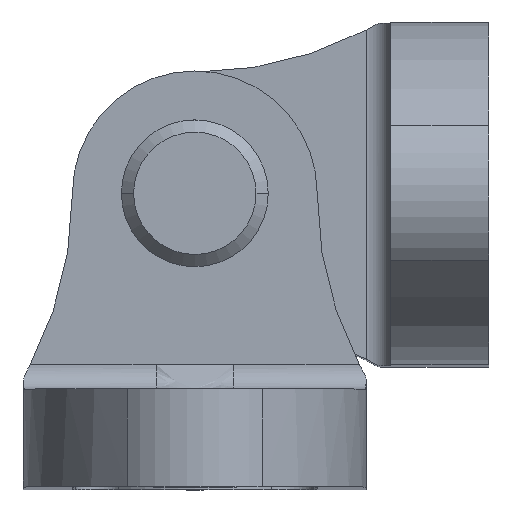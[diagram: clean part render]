
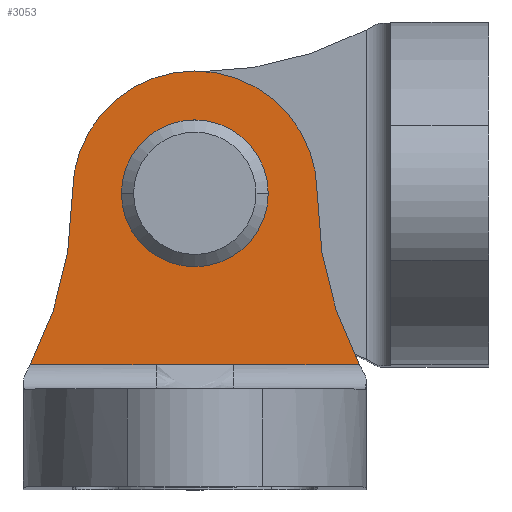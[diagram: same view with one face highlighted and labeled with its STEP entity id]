
A CAD part, top view. The second image highlights one B-rep face of the part: STEP entity #3053.
In plain terms, the highlighted planar face has unit normal (0, 0, 1).
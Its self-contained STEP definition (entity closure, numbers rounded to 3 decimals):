
#3 = CIRCLE ( 'NONE', #191, 15.062 ) ;
#7 = CIRCLE ( 'NONE', #1869, 3. ) ;
#94 = CARTESIAN_POINT ( 'NONE',  ( 0., 0., 69. ) ) ;
#107 = VECTOR ( 'NONE', #3447, 1000. ) ;
#132 = VERTEX_POINT ( 'NONE', #2239 ) ;
#191 = AXIS2_PLACEMENT_3D ( 'NONE', #3024, #1340, #3297 ) ;
#300 = ORIENTED_EDGE ( 'NONE', *, *, #1102, .T. ) ;
#321 = EDGE_CURVE ( 'NONE', #2236, #132, #1543, .T. ) ;
#362 = DIRECTION ( 'NONE',  ( 1., 0., 0. ) ) ;
#378 = DIRECTION ( 'NONE',  ( -1., 0., 0. ) ) ;
#383 = ORIENTED_EDGE ( 'NONE', *, *, #1260, .T. ) ;
#438 = DIRECTION ( 'NONE',  ( 0., 0., -1. ) ) ;
#540 = PLANE ( 'NONE',  #900 ) ;
#563 = AXIS2_PLACEMENT_3D ( 'NONE', #2346, #636, #2617 ) ;
#571 = ORIENTED_EDGE ( 'NONE', *, *, #3234, .T. ) ;
#602 = VERTEX_POINT ( 'NONE', #796 ) ;
#636 = DIRECTION ( 'NONE',  ( 0., 0., -1. ) ) ;
#642 = EDGE_LOOP ( 'NONE', ( #2132, #571, #1990, #2640, #383, #3285 ) ) ;
#774 = CARTESIAN_POINT ( 'NONE',  ( -5., 0., 69. ) ) ;
#796 = CARTESIAN_POINT ( 'NONE',  ( 3., 0., 69. ) ) ;
#842 = CARTESIAN_POINT ( 'NONE',  ( -73., -8., 69. ) ) ;
#900 = AXIS2_PLACEMENT_3D ( 'NONE', #842, #1127, #3094 ) ;
#988 = FACE_BOUND ( 'NONE', #3180, .T. ) ;
#1001 = CARTESIAN_POINT ( 'NONE',  ( -3., 0., 69. ) ) ;
#1102 = EDGE_CURVE ( 'NONE', #1300, #602, #3398, .T. ) ;
#1127 = DIRECTION ( 'NONE',  ( 0., 0., -1. ) ) ;
#1260 = EDGE_CURVE ( 'NONE', #1455, #1326, #2353, .T. ) ;
#1300 = VERTEX_POINT ( 'NONE', #1001 ) ;
#1301 = CARTESIAN_POINT ( 'NONE',  ( 0., 0., 69. ) ) ;
#1313 = VECTOR ( 'NONE', #362, 1000. ) ;
#1326 = VERTEX_POINT ( 'NONE', #2150 ) ;
#1334 = EDGE_CURVE ( 'NONE', #602, #1300, #7, .T. ) ;
#1340 = DIRECTION ( 'NONE',  ( 0., 0., 1. ) ) ;
#1402 = CARTESIAN_POINT ( 'NONE',  ( 1.578, -7., 69. ) ) ;
#1455 = VERTEX_POINT ( 'NONE', #3185 ) ;
#1543 = B_SPLINE_CURVE_WITH_KNOTS ( 'NONE', 3,
 ( #2724, #2206, #2939, #2954, #2992, #3225, #3025, #3041, #1967, #1402 ),
 .UNSPECIFIED., .F., .F.,
 ( 4, 2, 2, 2, 4 ),
 ( 0., 0.001, 0.002, 0.002, 0.003 ),
 .UNSPECIFIED. ) ;
#1589 = DIRECTION ( 'NONE',  ( -1., 0., 0. ) ) ;
#1610 = LINE ( 'NONE', #2879, #107 ) ;
#1689 = AXIS2_PLACEMENT_3D ( 'NONE', #2137, #438, #2422 ) ;
#1717 = ORIENTED_EDGE ( 'NONE', *, *, #1334, .T. ) ;
#1744 = EDGE_CURVE ( 'NONE', #132, #1455, #2070, .T. ) ;
#1869 = AXIS2_PLACEMENT_3D ( 'NONE', #1301, #3259, #1589 ) ;
#1967 = CARTESIAN_POINT ( 'NONE',  ( 1.315, -7., 69. ) ) ;
#1990 = ORIENTED_EDGE ( 'NONE', *, *, #321, .T. ) ;
#2068 = CARTESIAN_POINT ( 'NONE',  ( -6.725, -7., 69. ) ) ;
#2070 = LINE ( 'NONE', #2352, #1313 ) ;
#2075 = DIRECTION ( 'NONE',  ( 0., 0., -1. ) ) ;
#2132 = ORIENTED_EDGE ( 'NONE', *, *, #3488, .F. ) ;
#2137 = CARTESIAN_POINT ( 'NONE',  ( 20.063, 0., 69. ) ) ;
#2150 = CARTESIAN_POINT ( 'NONE',  ( 5., 0., 69. ) ) ;
#2206 = CARTESIAN_POINT ( 'NONE',  ( -1.315, -7., 69. ) ) ;
#2236 = VERTEX_POINT ( 'NONE', #2578 ) ;
#2239 = CARTESIAN_POINT ( 'NONE',  ( 1.578, -7., 69. ) ) ;
#2315 = CIRCLE ( 'NONE', #3406, 5. ) ;
#2346 = CARTESIAN_POINT ( 'NONE',  ( 0., 0., 69. ) ) ;
#2352 = CARTESIAN_POINT ( 'NONE',  ( 7., -7., 69. ) ) ;
#2353 = CIRCLE ( 'NONE', #1689, 15.063 ) ;
#2407 = EDGE_CURVE ( 'NONE', #3567, #1326, #2315, .T. ) ;
#2422 = DIRECTION ( 'NONE',  ( -1., 0., 0. ) ) ;
#2507 = FACE_OUTER_BOUND ( 'NONE', #642, .T. ) ;
#2578 = CARTESIAN_POINT ( 'NONE',  ( -1.578, -7., 69. ) ) ;
#2617 = DIRECTION ( 'NONE',  ( -1., 0., 0. ) ) ;
#2640 = ORIENTED_EDGE ( 'NONE', *, *, #1744, .T. ) ;
#2724 = CARTESIAN_POINT ( 'NONE',  ( -1.578, -7., 69. ) ) ;
#2827 = VERTEX_POINT ( 'NONE', #2068 ) ;
#2879 = CARTESIAN_POINT ( 'NONE',  ( 7., -7., 69. ) ) ;
#2939 = CARTESIAN_POINT ( 'NONE',  ( -1.052, -7.014, 69. ) ) ;
#2954 = CARTESIAN_POINT ( 'NONE',  ( -0.527, -7.037, 69. ) ) ;
#2992 = CARTESIAN_POINT ( 'NONE',  ( -0.264, -7.046, 69. ) ) ;
#3024 = CARTESIAN_POINT ( 'NONE',  ( -20.062, 0., 69. ) ) ;
#3025 = CARTESIAN_POINT ( 'NONE',  ( 0.526, -7.037, 69. ) ) ;
#3041 = CARTESIAN_POINT ( 'NONE',  ( 1.052, -7.014, 69. ) ) ;
#3053 = ADVANCED_FACE ( 'NONE', ( #2507, #988 ), #540, .F. ) ;
#3094 = DIRECTION ( 'NONE',  ( -1., 0., 0. ) ) ;
#3180 = EDGE_LOOP ( 'NONE', ( #300, #1717 ) ) ;
#3185 = CARTESIAN_POINT ( 'NONE',  ( 6.725, -7., 69. ) ) ;
#3225 = CARTESIAN_POINT ( 'NONE',  ( 0.262, -7.046, 69. ) ) ;
#3234 = EDGE_CURVE ( 'NONE', #2827, #2236, #1610, .T. ) ;
#3259 = DIRECTION ( 'NONE',  ( 0., 0., -1. ) ) ;
#3285 = ORIENTED_EDGE ( 'NONE', *, *, #2407, .F. ) ;
#3297 = DIRECTION ( 'NONE',  ( -1., 0., 0. ) ) ;
#3398 = CIRCLE ( 'NONE', #563, 3. ) ;
#3406 = AXIS2_PLACEMENT_3D ( 'NONE', #94, #2075, #378 ) ;
#3447 = DIRECTION ( 'NONE',  ( 1., 0., 0. ) ) ;
#3488 = EDGE_CURVE ( 'NONE', #2827, #3567, #3, .T. ) ;
#3567 = VERTEX_POINT ( 'NONE', #774 ) ;
